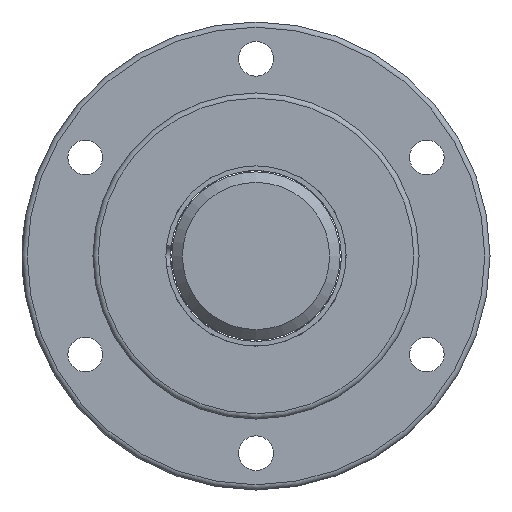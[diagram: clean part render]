
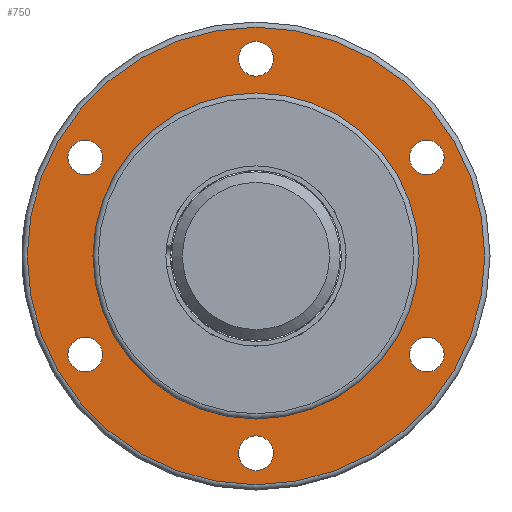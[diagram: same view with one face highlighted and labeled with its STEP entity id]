
A CAD part, left-side view. The second image highlights one B-rep face of the part: STEP entity #750.
In plain terms, the highlighted planar face has unit normal (-1, 0, 0).
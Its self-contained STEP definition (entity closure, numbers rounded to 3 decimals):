
#112=PLANE('',#880);
#205=ORIENTED_EDGE('',*,*,#296,.T.);
#206=ORIENTED_EDGE('',*,*,#302,.T.);
#207=ORIENTED_EDGE('',*,*,#308,.T.);
#208=ORIENTED_EDGE('',*,*,#315,.F.);
#209=ORIENTED_EDGE('',*,*,#312,.T.);
#210=ORIENTED_EDGE('',*,*,#311,.T.);
#211=ORIENTED_EDGE('',*,*,#305,.T.);
#212=ORIENTED_EDGE('',*,*,#299,.T.);
#296=EDGE_CURVE('',#369,#369,#430,.T.);
#299=EDGE_CURVE('',#372,#372,#433,.T.);
#302=EDGE_CURVE('',#375,#375,#436,.T.);
#305=EDGE_CURVE('',#378,#378,#439,.T.);
#308=EDGE_CURVE('',#381,#381,#442,.T.);
#311=EDGE_CURVE('',#384,#384,#445,.T.);
#312=EDGE_CURVE('',#385,#385,#446,.T.);
#315=EDGE_CURVE('',#388,#388,#449,.T.);
#369=VERTEX_POINT('',#1255);
#372=VERTEX_POINT('',#1264);
#375=VERTEX_POINT('',#1273);
#378=VERTEX_POINT('',#1282);
#381=VERTEX_POINT('',#1291);
#384=VERTEX_POINT('',#1300);
#385=VERTEX_POINT('',#1304);
#388=VERTEX_POINT('',#1312);
#430=CIRCLE('',#833,3.3);
#433=CIRCLE('',#839,3.3);
#436=CIRCLE('',#845,3.3);
#439=CIRCLE('',#851,3.3);
#442=CIRCLE('',#857,3.3);
#445=CIRCLE('',#863,3.3);
#446=CIRCLE('',#866,43.5);
#449=CIRCLE('',#871,31.);
#545=EDGE_LOOP('',(#205));
#546=EDGE_LOOP('',(#206));
#547=EDGE_LOOP('',(#207));
#548=EDGE_LOOP('',(#208));
#549=EDGE_LOOP('',(#209));
#550=EDGE_LOOP('',(#210));
#551=EDGE_LOOP('',(#211));
#552=EDGE_LOOP('',(#212));
#666=FACE_BOUND('',#545,.T.);
#667=FACE_BOUND('',#546,.T.);
#668=FACE_BOUND('',#547,.T.);
#669=FACE_BOUND('',#548,.T.);
#670=FACE_BOUND('',#549,.T.);
#671=FACE_BOUND('',#550,.T.);
#672=FACE_BOUND('',#551,.T.);
#673=FACE_BOUND('',#552,.T.);
#750=ADVANCED_FACE('',(#666,#667,#668,#669,#670,#671,#672,#673),#112,.F.);
#833=AXIS2_PLACEMENT_3D('',#1254,#991,#992);
#839=AXIS2_PLACEMENT_3D('',#1263,#1003,#1004);
#845=AXIS2_PLACEMENT_3D('',#1272,#1015,#1016);
#851=AXIS2_PLACEMENT_3D('',#1281,#1027,#1028);
#857=AXIS2_PLACEMENT_3D('',#1290,#1039,#1040);
#863=AXIS2_PLACEMENT_3D('',#1299,#1051,#1052);
#866=AXIS2_PLACEMENT_3D('',#1303,#1057,#1058);
#871=AXIS2_PLACEMENT_3D('',#1311,#1067,#1068);
#880=AXIS2_PLACEMENT_3D('',#1332,#1085,#1086);
#991=DIRECTION('',(1.,0.,0.));
#992=DIRECTION('',(0.,0.866,-0.5));
#1003=DIRECTION('',(1.,0.,0.));
#1004=DIRECTION('',(0.,0.866,0.5));
#1015=DIRECTION('',(1.,0.,0.));
#1016=DIRECTION('',(0.,0.,1.));
#1027=DIRECTION('',(1.,0.,0.));
#1028=DIRECTION('',(0.,-0.866,0.5));
#1039=DIRECTION('',(1.,0.,0.));
#1040=DIRECTION('',(0.,-0.866,-0.5));
#1051=DIRECTION('',(1.,0.,0.));
#1052=DIRECTION('',(0.,0.,-1.));
#1057=DIRECTION('',(-1.,0.,0.));
#1058=DIRECTION('',(0.,0.,-1.));
#1067=DIRECTION('',(-1.,0.,0.));
#1068=DIRECTION('',(0.,0.,1.));
#1085=DIRECTION('',(1.,0.,0.));
#1086=DIRECTION('',(0.,0.,-1.));
#1254=CARTESIAN_POINT('',(48.5,32.476,-18.75));
#1255=CARTESIAN_POINT('',(48.5,35.334,-20.4));
#1263=CARTESIAN_POINT('',(48.5,32.476,18.75));
#1264=CARTESIAN_POINT('',(48.5,35.334,20.4));
#1272=CARTESIAN_POINT('',(48.5,0.,37.5));
#1273=CARTESIAN_POINT('',(48.5,0.,40.8));
#1281=CARTESIAN_POINT('',(48.5,-32.476,18.75));
#1282=CARTESIAN_POINT('',(48.5,-35.334,20.4));
#1290=CARTESIAN_POINT('',(48.5,-32.476,-18.75));
#1291=CARTESIAN_POINT('',(48.5,-35.334,-20.4));
#1299=CARTESIAN_POINT('',(48.5,0.,-37.5));
#1300=CARTESIAN_POINT('',(48.5,0.,-40.8));
#1303=CARTESIAN_POINT('',(48.5,0.,0.));
#1304=CARTESIAN_POINT('',(48.5,0.,-43.5));
#1311=CARTESIAN_POINT('',(48.5,0.,0.));
#1312=CARTESIAN_POINT('',(48.5,0.,31.));
#1332=CARTESIAN_POINT('',(48.5,44.5,0.));
